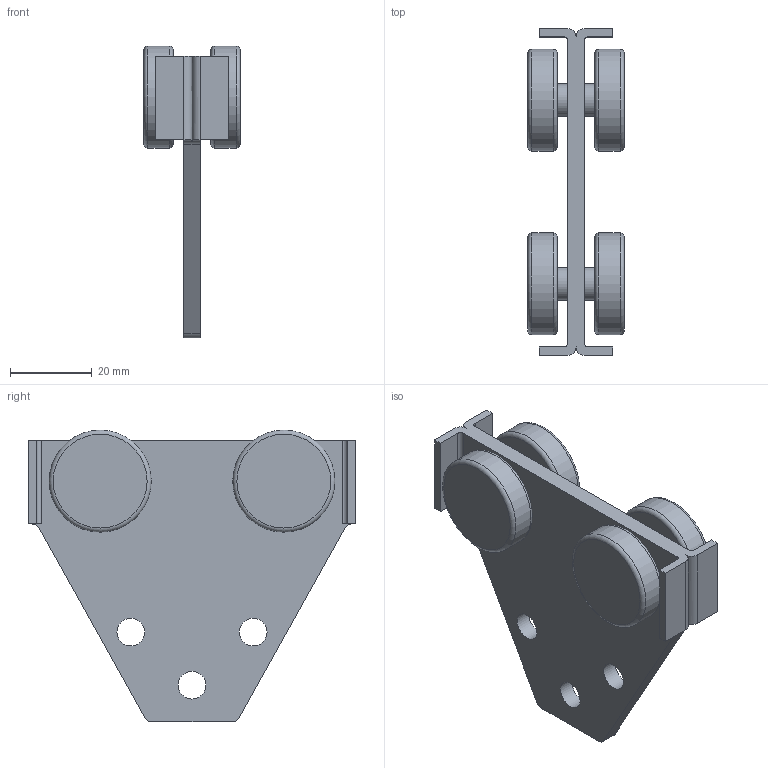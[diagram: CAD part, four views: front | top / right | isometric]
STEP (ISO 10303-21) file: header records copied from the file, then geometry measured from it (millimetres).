
FILE_DESCRIPTION((''),'2;1');
FILE_NAME('C:\Documents and Settings\Administrator\My Documents\Andys Backup Data\WEBSITE\DREAMWEAVER\MiniTec\Products\Modular_Workstations\CAD\Step\32.0224 TOOL TROLLEY.stp','2012-10-29T10:56:59',('Administrator'),(''),'Autodesk Inventor 2009','Autodesk Inventor 2009','');
FILE_SCHEMA(('AUTOMOTIVE_DESIGN { 1 0 10303 214 1 1 1 1 }'));
Length unit declared in the file: inch
Products named in the file (2): 32.0224 TOOL TROLLEY
Assembly tree (1 placements, depth 2):
  32.0224 TOOL TROLLEY
    32.0224 TOOL TROLLEY
Bounding box: 23.6 x 80 x 71.5 mm (x, y, z)
Volume: 31252.7 mm3; surface area: 16188.6 mm2
Topology: 1 solids, 1 shells, 61 faces, 145 edges, 94 vertices
Faces by surface type: plane 21, cylinder 19, bspline 13, torus 8
Full cylindrical faces by diameter (mm): 6.8 x3, 8 x4, 25 x4
Entity records: 1849 total; most frequent: CARTESIAN_POINT 415, DIRECTION 278, ORIENTED_EDGE 252, EDGE_CURVE 126, AXIS2_PLACEMENT_3D 105, VERTEX_POINT 94, EDGE_LOOP 94, VECTOR 68
